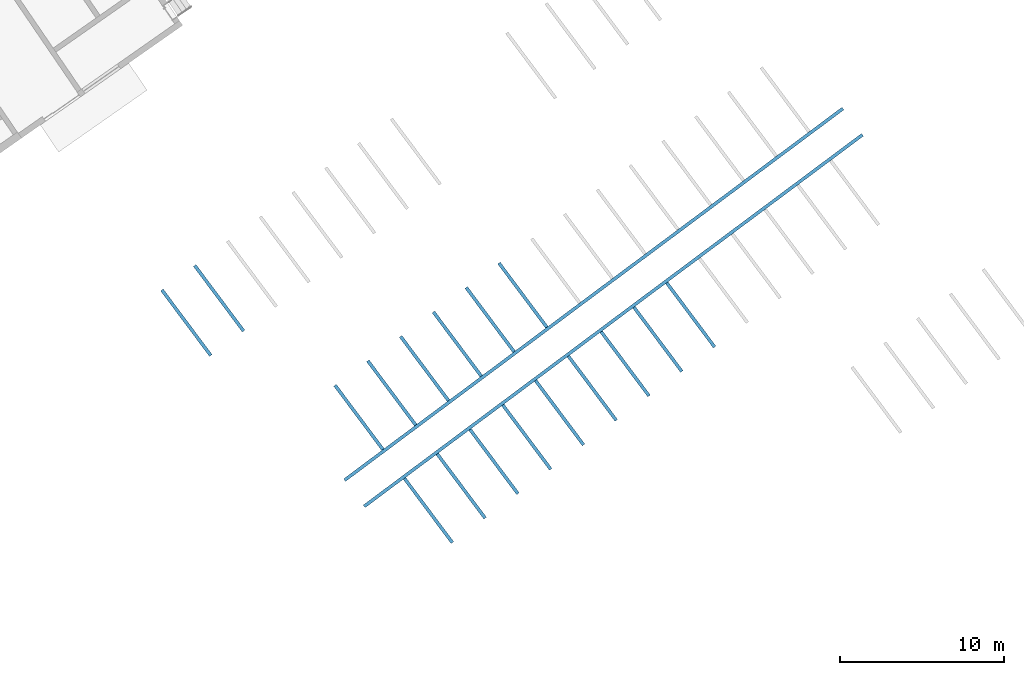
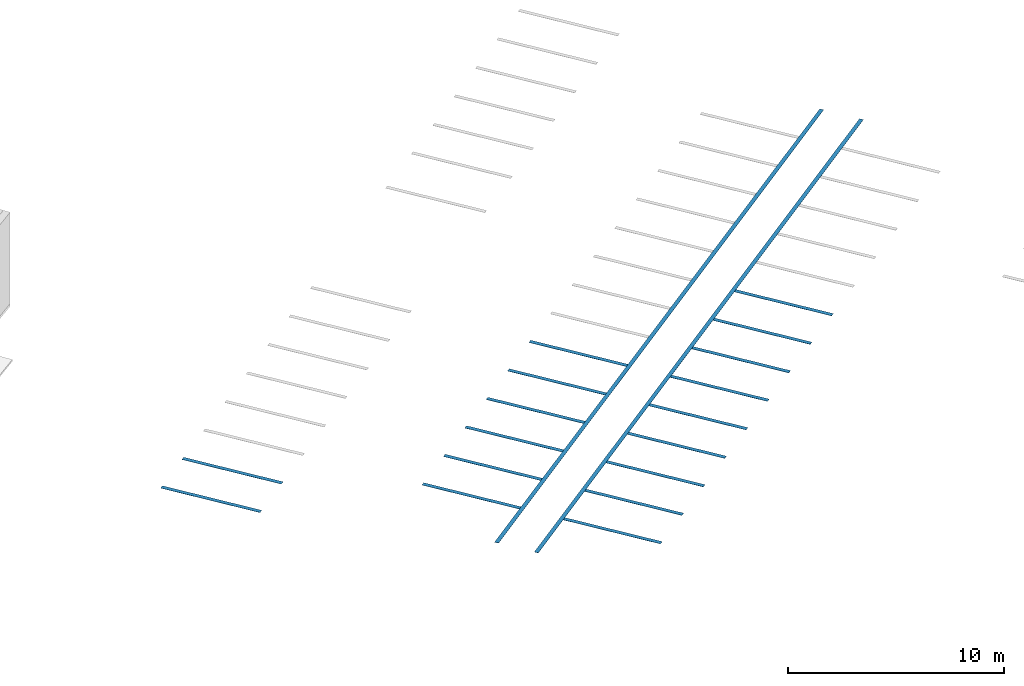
# One storey, part 56 of 157: 19 walls.
"""IFC2X3 building model written with IfcOpenShell, lengths in millimetres."""

from ifc_helpers import new_model, entity, si_unit, converted_unit, derived_unit, direction, frame, frame_2d, origin, origin_2d_with_axis, place, context, subcontext, project, spatial, polyline, rectangle, outline, extrude, material, type_object, element, save


model = new_model("IFC2X3")

# Units and contexts
model_context = context("Model", 3, precision=0.01, world=origin(), true_north=direction((6.123031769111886e-17, 1.0)))
body_context = subcontext(model_context, "Body", "Model", "MODEL_VIEW")
ifc_project = project(units=[si_unit("LENGTHUNIT", "METRE", prefix="MILLI"), si_unit("AREAUNIT", "SQUARE_METRE"), si_unit("VOLUMEUNIT", "CUBIC_METRE"), converted_unit("PLANEANGLEUNIT", "DEGREE", entity("IfcRatioMeasure", 0.017453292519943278), si_unit("PLANEANGLEUNIT", "RADIAN"), dimensions=[0, 0, 0, 0, 0, 0, 0]), si_unit("MASSUNIT", "GRAM", prefix="KILO"), derived_unit("MASSDENSITYUNIT", [(si_unit("MASSUNIT", "GRAM", prefix="KILO"), 1), (si_unit("LENGTHUNIT", "METRE"), -3)]), derived_unit("MOMENTOFINERTIAUNIT", [(si_unit("LENGTHUNIT", "METRE"), 4)]), si_unit("TIMEUNIT", "SECOND"), si_unit("FREQUENCYUNIT", "HERTZ"), si_unit("THERMODYNAMICTEMPERATUREUNIT", "DEGREE_CELSIUS"), derived_unit("THERMALTRANSMITTANCEUNIT", [(si_unit("MASSUNIT", "GRAM", prefix="KILO"), 1), (si_unit("THERMODYNAMICTEMPERATUREUNIT", "KELVIN"), -1), (si_unit("TIMEUNIT", "SECOND"), -3)]), derived_unit("THERMALCONDUCTANCEUNIT", [(si_unit("MASSUNIT", "GRAM", prefix="KILO"), 1), (si_unit("LENGTHUNIT", "METRE"), 1), (si_unit("THERMODYNAMICTEMPERATUREUNIT", "KELVIN"), -1), (si_unit("TIMEUNIT", "SECOND"), -3)]), derived_unit("VOLUMETRICFLOWRATEUNIT", [(si_unit("LENGTHUNIT", "METRE"), 3), (si_unit("TIMEUNIT", "SECOND"), -1)]), derived_unit("MASSFLOWRATEUNIT", [(si_unit("MASSUNIT", "GRAM", prefix="KILO"), 1), (si_unit("TIMEUNIT", "SECOND"), -1)]), derived_unit("ROTATIONALFREQUENCYUNIT", [(si_unit("TIMEUNIT", "SECOND"), -1)]), si_unit("ELECTRICCURRENTUNIT", "AMPERE"), si_unit("ELECTRICVOLTAGEUNIT", "VOLT"), si_unit("POWERUNIT", "WATT"), converted_unit("FORCEUNIT", "KIP", entity("IfcRatioMeasure", 2.088543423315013e-05), si_unit("FORCEUNIT", "NEWTON"), dimensions=[1, 1, -2, 0, 0, 0, 0]), si_unit("ILLUMINANCEUNIT", "LUX"), si_unit("LUMINOUSFLUXUNIT", "LUMEN"), si_unit("LUMINOUSINTENSITYUNIT", "CANDELA"), derived_unit("USERDEFINED", [(si_unit("MASSUNIT", "GRAM", prefix="KILO"), -1), (si_unit("LENGTHUNIT", "METRE"), -2), (si_unit("TIMEUNIT", "SECOND"), 3), (si_unit("LUMINOUSFLUXUNIT", "LUMEN"), 1)]), derived_unit("USERDEFINED", [(si_unit("MASSUNIT", "GRAM", prefix="KILO"), 1), (si_unit("LENGTHUNIT", "METRE"), 3), (si_unit("TIMEUNIT", "SECOND"), -3), (si_unit("ELECTRICCURRENTUNIT", "AMPERE"), -2)]), derived_unit("USERDEFINED", [(si_unit("LENGTHUNIT", "METRE"), 2), (si_unit("TIMEUNIT", "SECOND"), -2)]), derived_unit("SOUNDPOWERUNIT", [(si_unit("MASSUNIT", "GRAM", prefix="KILO"), 1), (si_unit("LENGTHUNIT", "METRE"), 2), (si_unit("TIMEUNIT", "SECOND"), -3)]), derived_unit("SOUNDPRESSUREUNIT", [(si_unit("MASSUNIT", "GRAM", prefix="KILO"), 1), (si_unit("LENGTHUNIT", "METRE"), -1), (si_unit("TIMEUNIT", "SECOND"), -2)]), derived_unit("LINEARVELOCITYUNIT", [(si_unit("LENGTHUNIT", "METRE"), 1), (si_unit("TIMEUNIT", "SECOND"), -1)]), si_unit("PRESSUREUNIT", "PASCAL"), derived_unit("USERDEFINED", [(si_unit("LENGTHUNIT", "METRE"), -2), (si_unit("MASSUNIT", "GRAM", prefix="KILO"), 1), (si_unit("TIMEUNIT", "SECOND"), -2)]), derived_unit("LINEARFORCEUNIT", [(si_unit("MASSUNIT", "GRAM", prefix="KILO"), 1), (si_unit("LENGTHUNIT", "METRE"), 1), (si_unit("TIMEUNIT", "SECOND"), -2), (si_unit("LENGTHUNIT", "METRE"), -1)]), derived_unit("PLANARFORCEUNIT", [(si_unit("MASSUNIT", "GRAM", prefix="KILO"), 1), (si_unit("LENGTHUNIT", "METRE"), 1), (si_unit("TIMEUNIT", "SECOND"), -2), (si_unit("LENGTHUNIT", "METRE"), -2)]), derived_unit("SPECIFICHEATCAPACITYUNIT", [(si_unit("LENGTHUNIT", "METRE"), 2), (si_unit("TIMEUNIT", "SECOND"), -2), (si_unit("THERMODYNAMICTEMPERATUREUNIT", "KELVIN"), -1)]), derived_unit("VAPORPERMEABILITYUNIT", [(si_unit("TIMEUNIT", "SECOND"), 1), (si_unit("LENGTHUNIT", "METRE"), -1)]), derived_unit("DYNAMICVISCOSITYUNIT", [(si_unit("MASSUNIT", "GRAM", prefix="KILO"), 1), (si_unit("LENGTHUNIT", "METRE"), -1), (si_unit("TIMEUNIT", "SECOND"), -1)]), derived_unit("THERMALEXPANSIONCOEFFICIENTUNIT", [(si_unit("THERMODYNAMICTEMPERATUREUNIT", "KELVIN"), -1)])], contexts=[model_context])

# Site, building, storey
site_placement = place(None, frame((0.0, 0.0, 0.0), z_axis=(0.0, 0.0, 1.0), x_axis=(0.8191520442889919, 0.5735764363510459, 0.0)))
site = spatial("IfcSite", under=ifc_project, at=site_placement, Name="Default", CompositionType="ELEMENT")
building_placement = place(site_placement, origin())
building = spatial("IfcBuilding", under=site, at=building_placement, CompositionType="ELEMENT")
storey_placement = place(building_placement, origin())
storey = spatial("IfcBuildingStorey", under=building, at=storey_placement, Name="1.EG +0.00", CompositionType="ELEMENT", Elevation=-4.331468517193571e-12)

# Walls
ifc_material = material(Name="road_markirovka")
wall_type_1 = type_object("IfcWallType", Name="05", PredefinedType="NOTDEFINED", material=ifc_material)
wall_1_placement = place(storey_placement, frame((-213474.21718731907, 34623.67347245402, -100.0), z_axis=(0.0, 0.0, 1.0), x_axis=(0.0, 1.0, 0.0)))
element("IfcWall", 1, at=wall_1_placement, inside=storey, type_object=wall_type_1, material=ifc_material, Name="05 204477:05 204477", ObjectType="05 204477:05 204477", context=body_context, shape_type="SweptSolid", body=[
    extrude(rectangle(XDim=200.00000000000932, YDim=4999.999999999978, at=origin_2d_with_axis()), frame((2501.8716955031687, -174.6516647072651, 0.0), z_axis=(0.0, 0.0, 1.0), x_axis=(-0.029878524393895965, 0.9995535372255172, 0.0)), (0.0, 0.0, 1.0), 9.99999999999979),
])
wall_type_2 = type_object("IfcWallType", Name="04", PredefinedType="NOTDEFINED", material=ifc_material)
wall_2_placement = place(storey_placement, frame((-215973.10101777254, 34548.97673960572, -100.0), z_axis=(0.0, 0.0, 1.0), x_axis=(0.0, 1.0, 0.0)))
element("IfcWall", 2, at=wall_2_placement, inside=storey, type_object=wall_type_2, material=ifc_material, Name="04 204487:04 204487", ObjectType="04 204487:04 204487", context=body_context, shape_type="SweptSolid", body=[
    extrude(rectangle(XDim=200.00000000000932, YDim=4999.999999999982, at=frame_2d((1.731592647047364e-11, -6.821210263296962e-13), x_axis=(1.0, 0.0))), frame((2501.871695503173, -174.6516647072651, 0.0), z_axis=(0.0, 0.0, 1.0), x_axis=(-0.029878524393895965, 0.9995535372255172, 0.0)), (0.0, 0.0, 1.0), 9.99999999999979),
])
wall_type_3 = type_object("IfcWallType", Name="04", PredefinedType="NOTDEFINED", material=ifc_material)
wall_3_placement = place(storey_placement, frame((-198152.22467712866, 24079.75371488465, -100.0), z_axis=(0.0, 0.0, 1.0), x_axis=(0.0, 1.0, 0.0)))
element("IfcWall", 3, at=wall_3_placement, inside=storey, type_object=wall_type_3, material=ifc_material, Name="04 204889:04 204889", ObjectType="04 204889:04 204889", context=body_context, shape_type="SweptSolid", body=[
    extrude(outline(polyline([(-100.0, -2450.0011723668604), (100.0, -2450.0011723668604), (100.0, 2450.0011460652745), (-100.0, 2450.0011986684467), (-100.0, -2450.0011723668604)])), frame((2548.862673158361, -173.1583709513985, 0.0), z_axis=(0.0, 0.0, 1.0), x_axis=(-0.029878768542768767, 0.999553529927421, 0.0)), (0.0, 0.0, 1.0), 9.99999999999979),
])
wall_type_4 = type_object("IfcWallType", Name="04", PredefinedType="NOTDEFINED", material=ifc_material)
wall_4_placement = place(storey_placement, frame((-200651.10850758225, 24005.05745077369, -100.0), z_axis=(0.0, 0.0, 1.0), x_axis=(0.0, 1.0, 0.0)))
element("IfcWall", 4, at=wall_4_placement, inside=storey, type_object=wall_type_4, material=ifc_material, Name="04 204892:04 204892", ObjectType="04 204892:04 204892", context=body_context, shape_type="SweptSolid", body=[
    extrude(outline(polyline([(-100.0, -2450.0009378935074), (100.0, -2450.0009378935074), (100.0, 2450.00091159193), (-100.0, 2450.000964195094), (-100.0, -2450.0009378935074)])), frame((2548.8624387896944, -173.15836394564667, 0.0), z_axis=(0.0, 0.0, 1.0), x_axis=(-0.029878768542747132, 0.9995535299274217, 0.0)), (0.0, 0.0, 1.0), 9.999999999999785),
])
wall_type_5 = type_object("IfcWallType", Name="04", PredefinedType="NOTDEFINED", material=ifc_material)
wall_5_placement = place(storey_placement, frame((-208147.7599989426, 23780.96865844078, -100.0), z_axis=(0.0, 0.0, 1.0), x_axis=(0.0, 1.0, 0.0)))
element("IfcWall", 5, at=wall_5_placement, inside=storey, type_object=wall_type_5, material=ifc_material, Name="04 204896:04 204896", ObjectType="04 204896:04 204896", context=body_context, shape_type="SweptSolid", body=[
    extrude(outline(polyline([(-100.0, -2450.00023447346), (100.0, -2450.0002344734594), (100.0, 2450.0002081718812), (-100.0, 2450.000260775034), (-100.0, -2450.00023447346)])), frame((2548.8617356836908, -173.15834292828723, 0.0), z_axis=(0.0, 0.0, 1.0), x_axis=(-0.029878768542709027, 0.9995535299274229, 0.0)), (0.0, 0.0, 1.0), 9.999999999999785),
])
wall_type_6 = type_object("IfcWallType", Name="04", PredefinedType="NOTDEFINED", material=ifc_material)
wall_6_placement = place(storey_placement, frame((-203149.99233803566, 23930.361186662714, -100.0), z_axis=(0.0, 0.0, 1.0), x_axis=(0.0, 1.0, 0.0)))
element("IfcWall", 6, at=wall_6_placement, inside=storey, type_object=wall_type_6, material=ifc_material, Name="04 204897:04 204897", ObjectType="04 204897:04 204897", context=body_context, shape_type="SweptSolid", body=[
    extrude(outline(polyline([(-100.0, -2450.000703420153), (100.0, -2450.000703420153), (100.0, 2450.00067711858), (-100.0, 2450.000729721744), (-100.0, -2450.000703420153)])), frame((2548.8622044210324, -173.1583569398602, 0.0), z_axis=(0.0, 0.0, 1.0), x_axis=(-0.029878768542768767, 0.999553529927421, 0.0)), (0.0, 0.0, 1.0), 9.99999999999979),
])
wall_type_7 = type_object("IfcWallType", Name="04", PredefinedType="NOTDEFINED", material=ifc_material)
wall_7_placement = place(storey_placement, frame((-210646.6418846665, 23706.27244659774, -100.0), z_axis=(0.0, 0.0, 1.0), x_axis=(0.0, 1.0, 0.0)))
element("IfcWall", 7, at=wall_7_placement, inside=storey, type_object=wall_type_7, material=ifc_material, Name="04 204900:04 204900", ObjectType="04 204900:04 204900", context=body_context, shape_type="SweptSolid", body=[
    extrude(outline(polyline([(-100.0, -2449.9967173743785), (100.0, -2449.9967173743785), (100.0, 2449.9966910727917), (-100.0, 2449.996743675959), (-100.0, -2449.9967173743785)])), frame((2548.858220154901, -173.15823784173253, 0.0), z_axis=(0.0, 0.0, 1.0), x_axis=(-0.029878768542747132, 0.9995535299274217, 0.0)), (0.0, 0.0, 1.0), 9.999999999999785),
])
wall_type_8 = type_object("IfcWallType", Name="04", PredefinedType="NOTDEFINED", material=ifc_material)
wall_8_placement = place(storey_placement, frame((-205648.8761684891, 23855.66492255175, -100.0), z_axis=(0.0, 0.0, 1.0), x_axis=(0.0, 1.0, 0.0)))
element("IfcWall", 8, at=wall_8_placement, inside=storey, type_object=wall_type_8, material=ifc_material, Name="04 204901:04 204901", ObjectType="04 204901:04 204901", context=body_context, shape_type="SweptSolid", body=[
    extrude(outline(polyline([(-100.0, -2450.00046894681), (100.0, -2450.00046894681), (100.0, 2450.0004426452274), (-100.0, 2450.000495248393), (-100.0, -2450.00046894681)])), frame((2548.8619700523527, -173.1583499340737, 0.0), z_axis=(0.0, 0.0, 1.0), x_axis=(-0.029878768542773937, 0.9995535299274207, 0.0)), (0.0, 0.0, 1.0), 9.999999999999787),
])
wall_type_9 = type_object("IfcWallType", Name="04", PredefinedType="NOTDEFINED", material=ifc_material)
wall_9_placement = place(storey_placement, frame((-213398.97955241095, 23516.680433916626, -100.0)))
element("IfcWall", 9, at=wall_9_placement, inside=storey, type_object=wall_type_9, material=ifc_material, Name="04 204911:04 204911", ObjectType="04 204911:04 204911", context=body_context, shape_type="SweptSolid", body=[
    extrude(rectangle(XDim=199.99999999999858, YDim=38000.012485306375, at=frame_2d((-1.6200374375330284e-12, 1.6370904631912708e-11), x_axis=(1.0, 0.0))), frame((18994.511308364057, 667.6471475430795, 0.0), z_axis=(0.0, 0.0, 1.0), x_axis=(-0.029878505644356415, 0.9995535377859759, 0.0)), (0.0, 0.0, 1.0), 9.999999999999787),
])
wall_type_10 = type_object("IfcWallType", Name="04", PredefinedType="NOTDEFINED", material=ifc_material)
wall_10_placement = place(storey_placement, frame((-192942.33052409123, 17229.286553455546, -100.0), z_axis=(0.0, 0.0, 1.0), x_axis=(0.0, 1.0, 0.0)))
element("IfcWall", 10, at=wall_10_placement, inside=storey, type_object=wall_type_10, material=ifc_material, Name="04 204915:04 204915", ObjectType="04 204915:04 204915", context=body_context, shape_type="SweptSolid", body=[
    extrude(outline(polyline([(-99.99935561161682, -2449.998358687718), (100.00064438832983, -2449.9983586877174), (99.99935561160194, 2449.9983849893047), (-100.00064438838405, 2449.9983323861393), (-99.99935561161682, -2449.998358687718)])), frame((2451.8923845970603, -173.1582876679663, 0.0), z_axis=(0.0, 0.0, 1.0), x_axis=(-0.029878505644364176, 0.9995535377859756, 0.0)), (0.0, 0.0, 1.0), 9.99999999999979),
])
wall_type_11 = type_object("IfcWallType", Name="04", PredefinedType="NOTDEFINED", material=ifc_material)
wall_11_placement = place(storey_placement, frame((-213339.22029118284, 21517.573425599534, -100.0)))
element("IfcWall", 11, at=wall_11_placement, inside=storey, type_object=wall_type_11, material=ifc_material, Name="04 204917:04 204917", ObjectType="04 204917:04 204917", context=body_context, shape_type="SweptSolid", body=[
    extrude(rectangle(XDim=199.99999999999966, YDim=38000.01076039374, at=frame_2d((-1.6555645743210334e-12, 1.8189894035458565e-11), x_axis=(1.0, 0.0))), frame((18994.51044629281, 667.6471217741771, 0.0), z_axis=(0.0, 0.0, 1.0), x_axis=(-0.02987850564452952, 0.9995535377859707, 0.0)), (0.0, 0.0, 1.0), 9.99999999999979),
])
wall_type_12 = type_object("IfcWallType", Name="04", PredefinedType="NOTDEFINED", material=ifc_material)
wall_12_placement = place(storey_placement, frame((-190443.44667962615, 17303.983286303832, -100.0), z_axis=(0.0, 0.0, 1.0), x_axis=(0.0, 1.0, 0.0)))
element("IfcWall", 12, at=wall_12_placement, inside=storey, type_object=wall_type_12, material=ifc_material, Name="04 204919:04 204919", ObjectType="04 204919:04 204919", context=body_context, shape_type="SweptSolid", body=[
    extrude(outline(polyline([(-99.99935561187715, -2449.998124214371), (100.00064438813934, -2449.998124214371), (99.99935561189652, 2449.9981505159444), (-100.0006443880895, 2449.998097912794), (-99.99935561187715, -2449.998124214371)])), frame((2451.892150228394, -173.15828066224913, 0.0), z_axis=(0.0, 0.0, 1.0), x_axis=(-0.029878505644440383, 0.9995535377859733, 0.0)), (0.0, 0.0, 1.0), 9.999999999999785),
])
wall_type_13 = type_object("IfcWallType", Name="04", PredefinedType="NOTDEFINED", material=ifc_material)
wall_13_placement = place(storey_placement, frame((-197940.085351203, 17079.893472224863, -100.0), z_axis=(0.0, 0.0, 1.0), x_axis=(0.0, 1.0, 0.0)))
element("IfcWall", 13, at=wall_13_placement, inside=storey, type_object=wall_type_13, material=ifc_material, Name="04 204922:04 204922", ObjectType="04 204922:04 204922", context=body_context, shape_type="SweptSolid", body=[
    extrude(outline(polyline([(-99.99935561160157, -2449.998827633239), (100.00064438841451, -2449.998827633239), (99.99935561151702, 2449.9988539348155), (-100.00064438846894, 2449.9988013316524), (-99.99935561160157, -2449.998827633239)])), frame((2451.892853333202, -173.15830167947, 0.0), z_axis=(0.0, 0.0, 1.0), x_axis=(-0.029878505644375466, 0.9995535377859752, 0.0)), (0.0, 0.0, 1.0), 9.999999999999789),
])
wall_type_14 = type_object("IfcWallType", Name="04", PredefinedType="NOTDEFINED", material=ifc_material)
wall_14_placement = place(storey_placement, frame((-195441.20150673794, 17154.59020507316, -100.0), z_axis=(0.0, 0.0, 1.0), x_axis=(0.0, 1.0, 0.0)))
element("IfcWall", 14, at=wall_14_placement, inside=storey, type_object=wall_type_14, material=ifc_material, Name="04 204925:04 204925", ObjectType="04 204925:04 204925", context=body_context, shape_type="SweptSolid", body=[
    extrude(outline(polyline([(-99.99935561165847, -2449.998593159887), (100.00064438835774, -2449.998593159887), (99.99935561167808, 2449.998619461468), (-100.00064438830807, 2449.9985668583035), (-99.99935561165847, -2449.998593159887)])), frame((2451.892618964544, -173.1582946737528, 0.0), z_axis=(0.0, 0.0, 1.0), x_axis=(-0.0298785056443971, 0.9995535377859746, 0.0)), (0.0, 0.0, 1.0), 9.99999999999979),
])
wall_type_15 = type_object("IfcWallType", Name="04", PredefinedType="NOTDEFINED", material=ifc_material)
wall_15_placement = place(storey_placement, frame((-202937.85304013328, 16930.500006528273, -100.0), z_axis=(0.0, 0.0, 1.0), x_axis=(0.0, 1.0, 0.0)))
element("IfcWall", 15, at=wall_15_placement, inside=storey, type_object=wall_type_15, material=ifc_material, Name="04 204926:04 204926", ObjectType="04 204926:04 204926", context=body_context, shape_type="SweptSolid", body=[
    extrude(outline(polyline([(-99.99935561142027, -2449.999296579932), (100.00064438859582, -2449.999296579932), (99.9993556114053, 2449.9993228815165), (-100.00064438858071, 2449.999270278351), (-99.99935561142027, -2449.999296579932)])), frame((2451.893322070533, -173.1583156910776, 0.0), z_axis=(0.0, 0.0, 1.0), x_axis=(-0.029878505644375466, 0.9995535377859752, 0.0)), (0.0, 0.0, 1.0), 9.99999999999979),
])
wall_type_16 = type_object("IfcWallType", Name="04", PredefinedType="NOTDEFINED", material=ifc_material)
wall_16_placement = place(storey_placement, frame((-205436.7368845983, 16855.803273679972, -100.0), z_axis=(0.0, 0.0, 1.0), x_axis=(0.0, 1.0, 0.0)))
element("IfcWall", 16, at=wall_16_placement, inside=storey, type_object=wall_type_16, material=ifc_material, Name="04 204929:04 204929", ObjectType="04 204929:04 204929", context=body_context, shape_type="SweptSolid", body=[
    extrude(outline(polyline([(-99.99935561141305, -2449.9995310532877), (100.00064438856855, -2449.9995310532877), (99.99935561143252, 2449.999557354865), (-100.0006443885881, 2449.999504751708), (-99.99935561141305, -2449.9995310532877)])), frame((2451.8935564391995, -173.15832269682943, 0.0), z_axis=(0.0, 0.0, 1.0), x_axis=(-0.029878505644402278, 0.9995535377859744, 0.0)), (0.0, 0.0, 1.0), 9.99999999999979),
])
wall_type_17 = type_object("IfcWallType", Name="04", PredefinedType="NOTDEFINED", material=ifc_material)
wall_17_placement = place(storey_placement, frame((-207935.62072906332, 16781.10654083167, -100.0), z_axis=(0.0, 0.0, 1.0), x_axis=(0.0, 1.0, 0.0)))
element("IfcWall", 17, at=wall_17_placement, inside=storey, type_object=wall_type_17, material=ifc_material, Name="04 204930:04 204930", ObjectType="04 204930:04 204930", context=body_context, shape_type="SweptSolid", body=[
    extrude(outline(polyline([(-99.99935561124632, -2449.999765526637), (100.00064438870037, -2449.999765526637), (99.99935561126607, 2449.999791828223), (-100.00064438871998, 2449.9997392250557), (-99.99935561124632, -2449.999765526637)])), frame((2451.8937908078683, -173.15832970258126, 0.0), z_axis=(0.0, 0.0, 1.0), x_axis=(-0.029878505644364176, 0.9995535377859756, 0.0)), (0.0, 0.0, 1.0), 9.99999999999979),
])
wall_type_18 = type_object("IfcWallType", Name="04", PredefinedType="NOTDEFINED", material=ifc_material)
wall_18_placement = place(storey_placement, frame((-210434.5028249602, 16706.40329793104, -100.0), z_axis=(0.0, 0.0, 1.0), x_axis=(0.0, 1.0, 0.0)))
element("IfcWall", 18, at=wall_18_placement, inside=storey, type_object=wall_type_18, material=ifc_material, Name="04 204933:04 204933", ObjectType="04 204933:04 204933", context=body_context, shape_type="SweptSolid", body=[
    extrude(outline(polyline([(-99.99935561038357, -2450.0032826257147), (100.00064438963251, -2450.0032826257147), (99.99935561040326, 2450.003308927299), (-100.00064438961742, 2450.003256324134), (-99.99935561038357, -2450.0032826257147)])), frame((2451.8973063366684, -173.15843478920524, 0.0), z_axis=(0.0, 0.0, 1.0), x_axis=(-0.029878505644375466, 0.9995535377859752, 0.0)), (0.0, 0.0, 1.0), 9.99999999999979),
])
wall_type_19 = type_object("IfcWallType", Name="04", PredefinedType="NOTDEFINED", material=ifc_material)
wall_19_placement = place(storey_placement, frame((-200438.96919566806, 17005.196739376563, -100.0), z_axis=(0.0, 0.0, 1.0), x_axis=(0.0, 1.0, 0.0)))
element("IfcWall", 19, at=wall_19_placement, inside=storey, type_object=wall_type_19, material=ifc_material, Name="04 204949:04 204949", ObjectType="04 204949:04 204949", context=body_context, shape_type="SweptSolid", body=[
    extrude(outline(polyline([(-99.99935561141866, -2449.999062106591), (100.00064438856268, -2449.999062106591), (99.99935561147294, 2449.9990884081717), (-100.00064438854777, 2449.999035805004), (-99.99935561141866, -2449.999062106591)])), frame((2451.893087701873, -173.1583086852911, 0.0), z_axis=(0.0, 0.0, 1.0), x_axis=(-0.029878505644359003, 0.9995535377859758, 0.0)), (0.0, 0.0, 1.0), 9.999999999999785),
])

save(model, "model.ifc")
